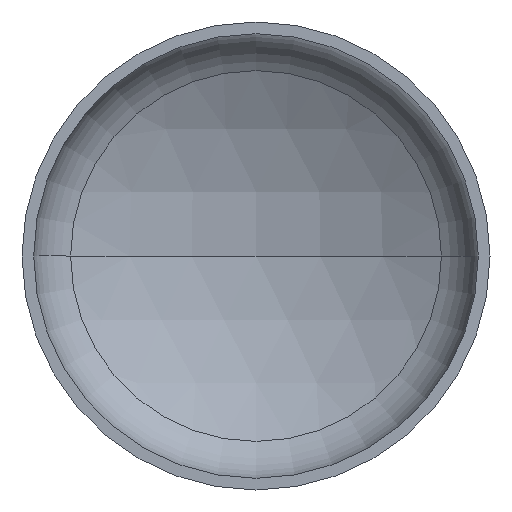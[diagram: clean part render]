
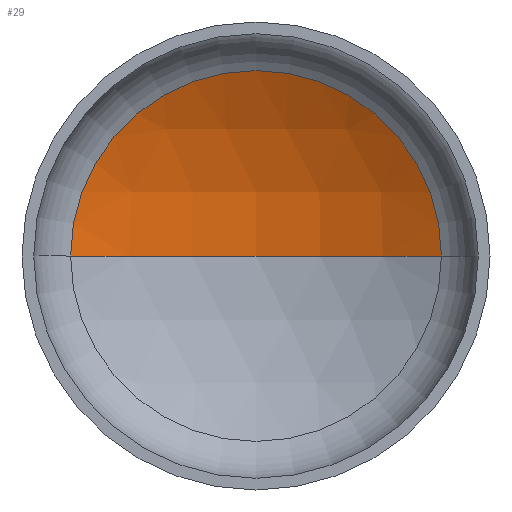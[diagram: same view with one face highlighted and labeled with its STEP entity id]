
A CAD part, front view. The second image highlights one B-rep face of the part: STEP entity #29.
In plain terms, the highlighted spherical face has radius 640 mm.
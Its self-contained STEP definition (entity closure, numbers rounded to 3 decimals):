
#20 = VERTEX_POINT ( 'NONE', #313 ) ;
#28 = EDGE_LOOP ( 'NONE', ( #57, #43, #156 ) ) ;
#29 = ADVANCED_FACE ( 'NONE', ( #379 ), #105, .F. ) ;
#35 = AXIS2_PLACEMENT_3D ( 'NONE', #165, #62, #58 ) ;
#36 = CIRCLE ( 'NONE', #41, 316.893 ) ;
#38 = AXIS2_PLACEMENT_3D ( 'NONE', #175, #65, #69 ) ;
#41 = AXIS2_PLACEMENT_3D ( 'NONE', #197, #201, #359 ) ;
#43 = ORIENTED_EDGE ( 'NONE', *, *, #91, .T. ) ;
#57 = ORIENTED_EDGE ( 'NONE', *, *, #92, .F. ) ;
#58 = DIRECTION ( 'NONE',  ( 1., 0., 0. ) ) ;
#62 = DIRECTION ( 'NONE',  ( 0., 0., 1. ) ) ;
#65 = DIRECTION ( 'NONE',  ( 0., 0., -1. ) ) ;
#69 = DIRECTION ( 'NONE',  ( -1., 0., 0. ) ) ;
#70 = AXIS2_PLACEMENT_3D ( 'NONE', #273, #247, #280 ) ;
#90 = EDGE_CURVE ( 'NONE', #136, #20, #36, .T. ) ;
#91 = EDGE_CURVE ( 'NONE', #108, #136, #364, .T. ) ;
#92 = EDGE_CURVE ( 'NONE', #108, #20, #246, .T. ) ;
#105 = SPHERICAL_SURFACE ( 'NONE', #70, 640. ) ;
#108 = VERTEX_POINT ( 'NONE', #174 ) ;
#136 = VERTEX_POINT ( 'NONE', #227 ) ;
#156 = ORIENTED_EDGE ( 'NONE', *, *, #90, .T. ) ;
#165 = CARTESIAN_POINT ( 'NONE',  ( 0., -387.437, 0. ) ) ;
#174 = CARTESIAN_POINT ( 'NONE',  ( 0., 252.563, 0. ) ) ;
#175 = CARTESIAN_POINT ( 'NONE',  ( 0., -387.437, 0. ) ) ;
#197 = CARTESIAN_POINT ( 'NONE',  ( 0., 168.601, 0. ) ) ;
#201 = DIRECTION ( 'NONE',  ( 0., -1., 0. ) ) ;
#227 = CARTESIAN_POINT ( 'NONE',  ( 316.893, 168.601, 0. ) ) ;
#246 = CIRCLE ( 'NONE', #35, 640. ) ;
#247 = DIRECTION ( 'NONE',  ( 0., 0., -1. ) ) ;
#273 = CARTESIAN_POINT ( 'NONE',  ( 0., -387.437, 0. ) ) ;
#280 = DIRECTION ( 'NONE',  ( -1., 0., 0. ) ) ;
#313 = CARTESIAN_POINT ( 'NONE',  ( -316.893, 168.601, 0. ) ) ;
#359 = DIRECTION ( 'NONE',  ( 1., 0., 0. ) ) ;
#364 = CIRCLE ( 'NONE', #38, 640. ) ;
#379 = FACE_OUTER_BOUND ( 'NONE', #28, .T. ) ;
